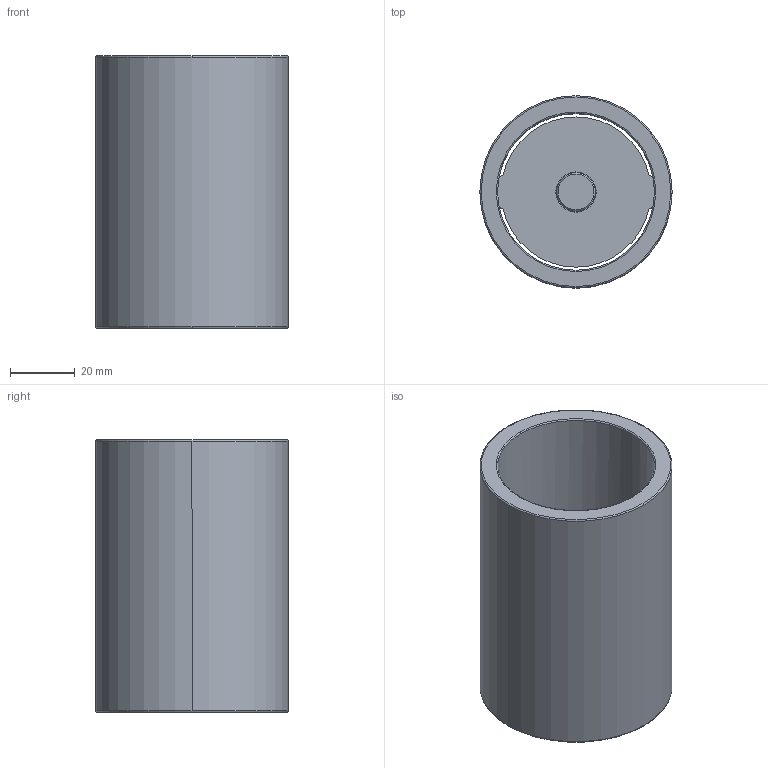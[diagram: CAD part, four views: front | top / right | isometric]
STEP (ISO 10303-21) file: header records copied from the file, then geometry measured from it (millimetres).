
FILE_DESCRIPTION((''),'2;1');
FILE_NAME('C11_048_084.stp','2009-01-12T09:44:53',(''),(''),'Mechanical Desktop 2009','Mechanical Desktop 2009',', , ');
FILE_SCHEMA(('CONFIG_CONTROL_DESIGN'));
Length unit declared in the file: millimetre
Products named in the file (2): Product; blmdl1
Assembly tree (1 placements, depth 2):
  Product
    blmdl1
Bounding box: 59.25 x 59.25 x 84 mm (x, y, z)
Volume: 84209.8 mm3; surface area: 36168.8 mm2
Topology: 3 solids, 3 shells, 44 faces, 110 edges, 74 vertices
Faces by surface type: cylinder 16, plane 16, torus 10, cone 2
Entity records: 1507 total; most frequent: CARTESIAN_POINT 274, DIRECTION 266, ORIENTED_EDGE 220, AXIS2_PLACEMENT_3D 114, EDGE_CURVE 110, VERTEX_POINT 74, CIRCLE 68, EDGE_LOOP 50
